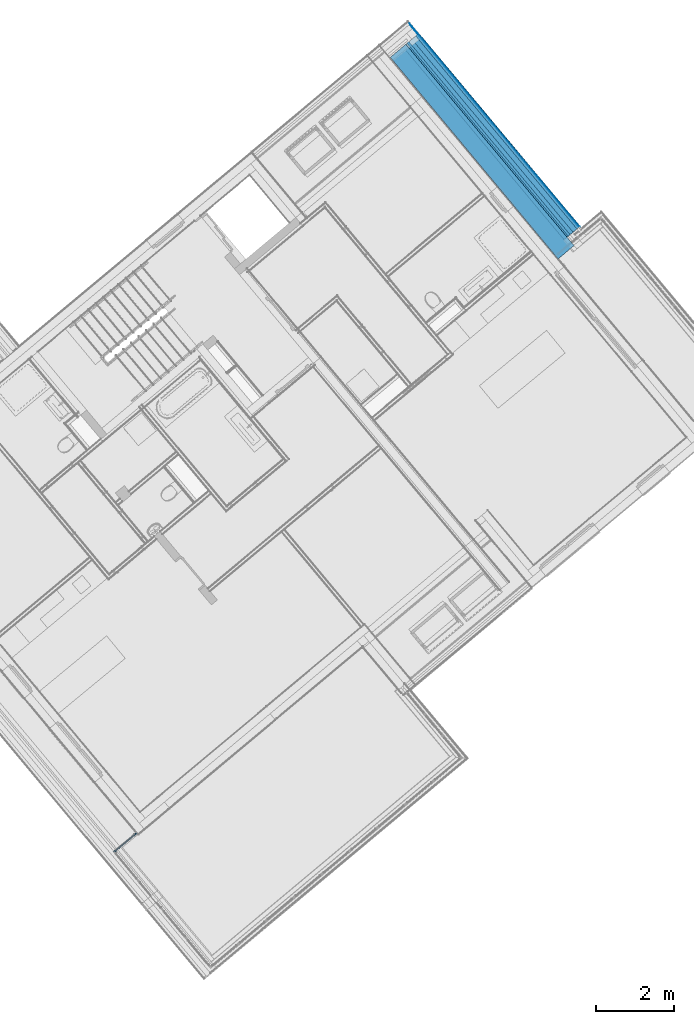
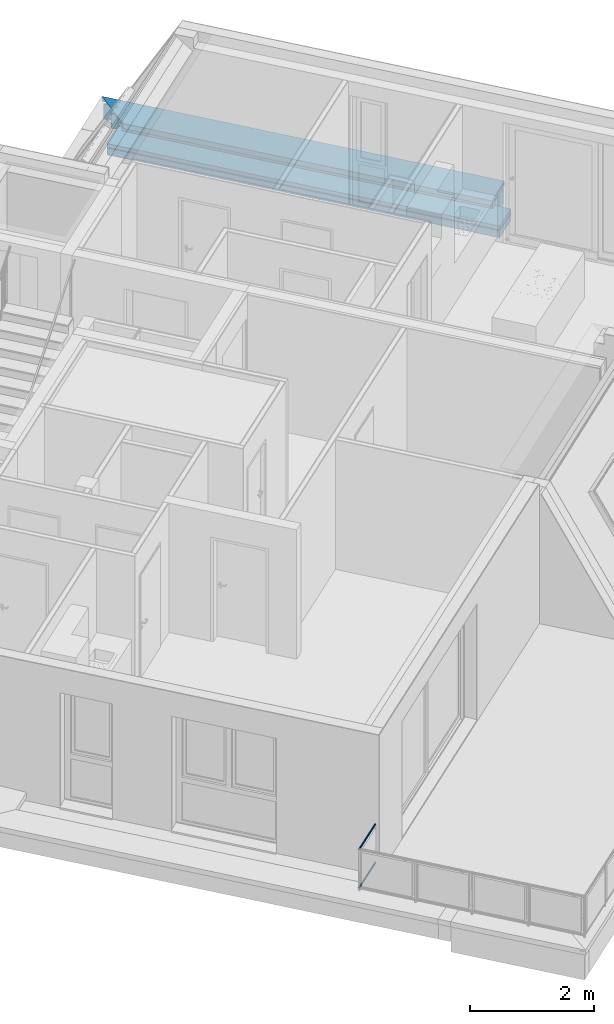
# One storey, part 41 of 58: 15 building element parts, 3 elements without a shape of their own.
"""IFC4 building model written with IfcOpenShell, lengths in metres."""

from ifc_helpers import new_model, entity, si_unit, converted_unit, derived_unit, direction, frame, origin_with_axes, place, context, subcontext, project, spatial, polygons, material, type_object, element, aggregate, save


model = new_model("IFC4")

# Units and contexts
model_context = context("Model", 3, precision=1e-05, world=origin_with_axes(), true_north=direction((0.0, 1.0)))
body_context = subcontext(model_context, "Body", "Model", "MODEL_VIEW")
ifc_project = project(units=[si_unit("LENGTHUNIT", "METRE"), si_unit("AREAUNIT", "SQUARE_METRE"), si_unit("VOLUMEUNIT", "CUBIC_METRE"), converted_unit("PLANEANGLEUNIT", "DEGREE", entity("IfcPlaneAngleMeasure", 0.0174532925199), si_unit("PLANEANGLEUNIT", "RADIAN"), dimensions=[0, 0, 0, 0, 0, 0, 0]), converted_unit("TIMEUNIT", "Year", entity("IfcTimeMeasure", 31556926.0), si_unit("TIMEUNIT", "SECOND"), dimensions=[0, 0, 1, 0, 0, 0, 0]), si_unit("MASSUNIT", "GRAM", prefix="KILO"), si_unit("THERMODYNAMICTEMPERATUREUNIT", "DEGREE_CELSIUS"), si_unit("LUMINOUSINTENSITYUNIT", "LUMEN"), si_unit("ENERGYUNIT", "JOULE", prefix="MEGA"), derived_unit("THERMALCONDUCTANCEUNIT", [(si_unit("POWERUNIT", "WATT"), 1), (si_unit("LENGTHUNIT", "METRE"), -1), (si_unit("THERMODYNAMICTEMPERATUREUNIT", "KELVIN"), -1)]), derived_unit("SPECIFICHEATCAPACITYUNIT", [(si_unit("ENERGYUNIT", "JOULE"), 1), (si_unit("MASSUNIT", "GRAM", prefix="KILO"), -1), (si_unit("THERMODYNAMICTEMPERATUREUNIT", "KELVIN"), -1)]), derived_unit("MASSDENSITYUNIT", [(si_unit("MASSUNIT", "GRAM", prefix="KILO"), 1), (si_unit("VOLUMEUNIT", "CUBIC_METRE"), -1)])], contexts=[model_context])

# Site, building, storey
site_placement = place(None, frame((-0.00153261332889, -0.00661245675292, 0.0), z_axis=(0.0, 0.0, 1.0), x_axis=(1.0, 0.0, 0.0)))
site = spatial("IfcSite", under=ifc_project, at=site_placement, Name="Site", CompositionType="ELEMENT")
building_placement = place(site_placement, origin_with_axes())
building = spatial("IfcBuilding", under=site, at=building_placement, Name="Building", CompositionType="ELEMENT")
storey_placement = place(building_placement, frame((0.0, 0.0, 5.7), z_axis=(0.0, 0.0, 1.0), x_axis=(1.0, 0.0, 0.0)))
storey = spatial("IfcBuildingStorey", under=building, at=storey_placement, Name="DG1", CompositionType="ELEMENT", Elevation=5.7)

# Wall, building element parts
wall_type = type_object("IfcWallType", Name="Bauteil - Attika Terrasse 1.DG 574 x 410", PredefinedType="NOTDEFINED")
wall_placement = place(storey_placement, frame((5.63225201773, 30.7000107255, -0.2), z_axis=(0.0, 0.0, 1.0), x_axis=(0.641212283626, -0.767363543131, 0.0)))
wall = element("IfcWall", 1, at=wall_placement, inside=storey, type_object=wall_type, Name="Wand-003", PredefinedType="NOTDEFINED")
ifc_material_1 = material(Name="Zementputz")
building_element_part_1_placement = place(wall_placement, origin_with_axes())
building_element_part_1 = element("IfcBuildingElementPart", 2, at=building_element_part_1_placement, material=ifc_material_1, Name="Zementputz", PredefinedType="NOTDEFINED", context=body_context, shape_type="Tessellation", body=[
    polygons([(-0.199999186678, 0.214999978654, 0.498822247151), (-0.199999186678, 0.214999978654, 0.499999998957), (6.65166284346, 0.214999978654, 0.499999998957), (6.65166284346, 0.214999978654, 0.2), (-0.199999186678, 0.214999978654, 0.2), (-0.199999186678, 0.214999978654, 0.335), (-0.199999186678, 0.214999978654, 0.488695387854), (-0.199999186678, 0.214999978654, 0.49100648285), (-0.199999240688, 0.199999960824, 0.499999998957), (-0.199999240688, 0.199999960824, 0.498822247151), (6.65166284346, 0.199999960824, 0.499999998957), (6.65166284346, 0.199999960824, 0.2), (-0.199999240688, 0.199999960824, 0.2), (-0.199999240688, 0.199999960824, 0.335), (-0.199999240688, 0.199999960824, 0.488695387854), (-0.199999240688, 0.199999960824, 0.49100648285)], [[[1, 2, 3, 4, 5, 6, 7, 8]], [[9, 2, 1, 10]], [[2, 9, 11, 3]], [[4, 3, 11, 12]], [[13, 5, 4, 12]], [[14, 6, 5, 13]], [[15, 7, 6, 14]], [[16, 8, 7, 15]], [[10, 1, 8, 16]], [[9, 10, 16, 15, 14, 13, 12, 11]]], closed=True),
])
ifc_material_2 = material(Name="Vollholz")
building_element_part_2_placement = place(wall_placement, origin_with_axes())
building_element_part_2 = element("IfcBuildingElementPart", 3, at=building_element_part_2_placement, material=ifc_material_2, Name="Vollholz", PredefinedType="NOTDEFINED", context=body_context, shape_type="Tessellation", body=[
    polygons([(-0.130124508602, 0.130124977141, 0.584015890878), (-0.130124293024, 0.189996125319, 0.584015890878), (-0.130124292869, 0.190039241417, 0.575979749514), (-0.130124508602, 0.130124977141, 0.575979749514), (-0.189984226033, 0.189984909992, 0.586106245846), (6.65166284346, 0.189984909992, 0.586106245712), (6.65166284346, 0.190124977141, 0.560000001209), (-0.13012429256, 0.190124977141, 0.560000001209), (-0.130124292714, 0.190082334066, 0.567947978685), (-0.130124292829, 0.190050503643, 0.573880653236), (-0.130124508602, 0.130124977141, 0.573880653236), (-0.130124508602, 0.130124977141, 0.560000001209), (6.65166284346, 0.130124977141, 0.560000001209), (6.65166284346, 0.130124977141, 0.584015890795), (-0.130124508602, 0.130124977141, 0.567947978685)], [[[1, 2, 3, 4]], [[5, 2, 1]], [[2, 5, 6, 7, 8, 9, 10, 3]], [[3, 10, 11, 4]], [[12, 13, 14, 1, 4, 11, 15]], [[5, 1, 14, 6]], [[14, 13, 7, 6]], [[12, 8, 7, 13]], [[12, 15, 9, 8]], [[9, 15, 11, 10]]], closed=True),
])
ifc_material_3 = material(Name="EPS 1")
building_element_part_3_placement = place(wall_placement, origin_with_axes())
building_element_part_3 = element("IfcBuildingElementPart", 4, at=building_element_part_3_placement, material=ifc_material_3, Name="EPS 1", PredefinedType="NOTDEFINED", context=body_context, shape_type="Tessellation", body=[
    polygons([(7.19897897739e-07, 0.19999996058, 0.498822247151), (7.19897901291e-07, 0.19999996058, 0.499999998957), (6.65166284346, 0.19999996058, 0.499999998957), (6.65166284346, 0.19999996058, 0.2), (7.19897901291e-07, 0.19999996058, 0.2), (7.19897897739e-07, 0.19999996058, 0.335), (7.19897897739e-07, 0.19999996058, 0.488695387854), (7.19897897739e-07, 0.19999996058, 0.49100648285), (-2.39904096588e-10, 2.39907649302e-10, 0.499999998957), (-2.39904096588e-10, 2.39907649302e-10, 0.498822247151), (6.65166284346, 2.39907649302e-10, 0.499999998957), (6.65166284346, 2.39907649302e-10, 0.2), (-2.39904096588e-10, 2.39907649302e-10, 0.2), (-2.39904096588e-10, 2.39907649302e-10, 0.335), (-2.39904096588e-10, 2.39907649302e-10, 0.488695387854), (-2.39904096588e-10, 2.39907649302e-10, 0.49100648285)], [[[1, 2, 3, 4, 5, 6, 7, 8]], [[9, 2, 1, 10]], [[2, 9, 11, 3]], [[12, 4, 3, 11]], [[13, 5, 4, 12]], [[14, 6, 5, 13]], [[15, 7, 6, 14]], [[16, 8, 7, 15]], [[10, 1, 8, 16]], [[9, 10, 16, 15, 14, 13, 12, 11]]], closed=True),
])
ifc_material_4 = material(Name="Brettschichtholz")
building_element_part_4_placement = place(wall_placement, origin_with_axes())
building_element_part_4 = element("IfcBuildingElementPart", 5, at=building_element_part_4_placement, material=ifc_material_4, Name="Brettschichtholz", PredefinedType="NOTDEFINED", context=body_context, shape_type="Tessellation", body=[
    polygons([(0.200000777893, 0.214999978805, 0.519224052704), (0.200000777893, 0.214999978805, 0.559999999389), (6.65166284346, 0.214999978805, 0.559999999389), (6.65166284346, 0.214999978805, 0.499999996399), (0.200000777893, 0.214999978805, 0.500000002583), (0.200000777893, 0.214999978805, 0.50905023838), (0.200000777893, 0.214999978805, 0.511361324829), (0.200000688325, 0.190124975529, 0.559999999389), (0.199999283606, -0.200000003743, 0.519224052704), (0.199999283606, -0.200000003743, 0.559999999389), (0.199999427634, -0.159999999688, 0.559999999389), (0.199999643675, -0.100000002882, 0.559999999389), (0.200000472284, 0.130124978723, 0.559999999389), (6.65166284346, 0.190124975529, 0.559999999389), (6.65166284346, -0.200000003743, 0.500000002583), (6.65166284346, 0.130124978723, 0.559999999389), (6.65166284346, -0.100000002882, 0.559999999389), (6.65166284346, -0.159999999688, 0.559999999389), (6.65166284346, -0.200000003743, 0.559999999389), (0.199999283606, -0.200000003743, 0.500000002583), (0.199999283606, -0.200000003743, 0.50905023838), (0.199999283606, -0.200000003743, 0.511361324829)], [[[1, 2, 3, 4, 5, 6, 7]], [[8, 2, 1, 9, 10, 11, 12, 13]], [[2, 8, 14, 3]], [[15, 4, 3, 14, 16, 17, 18, 19]], [[20, 5, 4, 15]], [[21, 6, 5, 20]], [[22, 7, 6, 21]], [[9, 1, 7, 22]], [[10, 9, 22, 21, 20, 15, 19]], [[11, 10, 19, 18]], [[12, 11, 18, 17]], [[13, 12, 17, 16]], [[8, 13, 16, 14]]], closed=True),
])
ifc_material_5 = material(Name="Stahlbeton")
building_element_part_5_placement = place(wall_placement, origin_with_axes())
building_element_part_5 = element("IfcBuildingElementPart", 6, at=building_element_part_5_placement, material=ifc_material_5, Name="Stahlbeton", PredefinedType="NOTDEFINED", context=body_context, shape_type="Tessellation", body=[
    polygons([(0.199999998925, -1.82835790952e-09, 0.498822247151), (0.199999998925, -1.82835790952e-09, 0.500000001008), (6.65166284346, -1.82836146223e-09, 0.500000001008), (6.65166284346, -1.82836146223e-09, 0.2), (0.199999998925, -1.82835790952e-09, 0.2), (0.199999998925, -1.82835790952e-09, 0.335), (0.199999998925, -1.82835790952e-09, 0.488695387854), (0.199999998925, -1.82835790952e-09, 0.49100648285), (0.199999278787, -0.199999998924, 0.500000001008), (0.199999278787, -0.199999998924, 0.498822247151), (6.65166284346, -0.199999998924, 0.500000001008), (6.65166284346, -0.199999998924, 0.2), (6.65166284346, -0.199999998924, 0.335000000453), (0.199999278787, -0.199999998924, 0.2), (0.199999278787, -0.199999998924, 0.335), (0.199999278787, -0.199999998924, 0.488695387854), (0.199999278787, -0.199999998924, 0.49100648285)], [[[1, 2, 3, 4, 5, 6, 7, 8]], [[9, 2, 1, 10]], [[2, 9, 11, 3]], [[12, 4, 3, 11, 13]], [[14, 5, 4, 12]], [[15, 6, 5, 14]], [[16, 7, 6, 15]], [[17, 8, 7, 16]], [[10, 1, 8, 17]], [[9, 10, 17, 16, 15, 13, 11]], [[15, 14, 12, 13]]], closed=True),
])
building_element_part_6_placement = place(wall_placement, origin_with_axes())
building_element_part_6 = element("IfcBuildingElementPart", 7, at=building_element_part_6_placement, material=ifc_material_2, Name="Vollholz", PredefinedType="NOTDEFINED", context=body_context, shape_type="Tessellation", body=[
    polygons([(0.160109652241, -0.160110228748, 0.573880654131), (0.16010986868, -0.1, 0.573880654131), (0.160062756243, -0.1, 0.567947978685), (0.160062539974, -0.160063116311, 0.567947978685), (0.0999996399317, -0.1, 0.575979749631), (6.65166284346, -0.1, 0.575979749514), (6.65166284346, -0.1, 0.560000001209), (0.159999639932, -0.1, 0.560000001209), (0.159999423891, -0.16, 0.560000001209), (6.65166284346, -0.16, 0.560000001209), (6.65166284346, -0.160110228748, 0.573880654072)], [[[1, 2, 3, 4]], [[5, 2, 1]], [[2, 5, 6, 7, 8, 3]], [[4, 3, 8, 9]], [[1, 4, 9, 10, 11]], [[5, 1, 11, 6]], [[11, 10, 7, 6]], [[9, 8, 7, 10]]], closed=True),
])
building_element_part_7_placement = place(wall_placement, origin_with_axes())
building_element_part_7 = element("IfcBuildingElementPart", 8, at=building_element_part_7_placement, material=ifc_material_3, Name="EPS 1", PredefinedType="NOTDEFINED", context=body_context, shape_type="Tessellation", body=[
    polygons([(0.299999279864, -0.2, 0.519224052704), (0.299999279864, -0.2, 0.560000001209), (6.65166284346, -0.2, 0.560000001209), (6.65166284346, -0.2, 0.335), (0.299999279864, -0.2, 0.335), (0.299999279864, -0.2, 0.488695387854), (0.299999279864, -0.2, 0.49100648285), (0.299999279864, -0.2, 0.498822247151), (0.299999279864, -0.2, 0.499999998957), (0.299999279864, -0.2, 0.50905023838), (0.299999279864, -0.2, 0.511361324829), (0.299998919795, -0.3, 0.560000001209), (0.299998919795, -0.3, 0.519224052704), (6.65166284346, -0.3, 0.560000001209), (6.65166284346, -0.3, 0.335), (0.299998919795, -0.3, 0.335), (0.299998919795, -0.3, 0.488695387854), (0.299998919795, -0.3, 0.49100648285), (0.299998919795, -0.3, 0.498822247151), (0.299998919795, -0.3, 0.499999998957), (0.299998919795, -0.3, 0.50905023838), (0.299998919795, -0.3, 0.511361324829)], [[[1, 2, 3, 4, 5, 6, 7, 8, 9, 10, 11]], [[12, 2, 1, 13]], [[2, 12, 14, 3]], [[15, 4, 3, 14]], [[16, 5, 4, 15]], [[17, 6, 5, 16]], [[18, 7, 6, 17]], [[19, 8, 7, 18]], [[20, 9, 8, 19]], [[21, 10, 9, 20]], [[22, 11, 10, 21]], [[13, 1, 11, 22]], [[12, 13, 22, 21, 20, 19, 18, 17, 16, 15, 14]]], closed=True),
])
ifc_material_6 = material(Name="Holzwerkstoff")
building_element_part_8_placement = place(wall_placement, origin_with_axes())
building_element_part_8 = element("IfcBuildingElementPart", 9, at=building_element_part_8_placement, material=ifc_material_6, Name="Holzwerkstoff", PredefinedType="NOTDEFINED", context=body_context, shape_type="Tessellation", body=[
    polygons([(0.32999880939, -0.329999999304, 0.567947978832), (0.330205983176, -0.330207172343, 0.573880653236), (0.330206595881, -0.160110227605, 0.573880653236), (0.3305599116, -0.330561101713, 0.584015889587), (0.330279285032, -0.330280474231, 0.57597974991), (6.65166284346, -0.329999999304, 0.567947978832), (6.65166284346, -0.330698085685, 0.587938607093), (0.330696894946, -0.330698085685, 0.587938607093), (0.330632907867, -0.330634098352, 0.586106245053), (0.330280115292, -0.100000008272, 0.575979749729), (6.65166284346, -0.160110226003, 0.573880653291), (0.330561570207, 0.130125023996, 0.584015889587), (6.65166284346, -0.100000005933, 0.575979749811), (6.65166284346, 0.130124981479, 0.584015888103), (6.65166284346, 0.189984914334, 0.586106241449), (6.65166284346, 0.239999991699, 0.587852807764), (6.65166284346, 0.239276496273, 0.608570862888), (-0.239275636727, 0.239276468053, 0.608570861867), (0.330698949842, 0.2399969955, 0.587938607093), (0.330695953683, 0.239999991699, 0.587852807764), (0.330634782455, 0.189985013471, 0.586106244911)], [[[1, 2, 3]], [[4, 5, 2, 1, 6, 7, 8, 9]], [[2, 5, 10, 3]], [[1, 3, 11, 6]], [[5, 4, 12, 10]], [[7, 6, 11, 13, 14, 15, 16, 17]], [[18, 8, 7, 17]], [[9, 8, 19, 20, 21]], [[4, 9, 21, 12]], [[3, 10, 13, 11]], [[10, 12, 14, 13]], [[12, 21, 15, 14]], [[21, 20, 16, 15]], [[19, 18, 17, 16, 20]], [[8, 18, 19]]], closed=True),
])
ifc_material_7 = material(Name="Stahl")
building_element_part_9_placement = place(wall_placement, origin_with_axes())
building_element_part_9 = element("IfcBuildingElementPart", 10, at=building_element_part_9_placement, material=ifc_material_7, Name="Stahl", PredefinedType="NOTDEFINED", context=body_context, shape_type="Tessellation", body=[
    polygons([(0.332050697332, -0.332051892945, 0.49100648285), (0.332050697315, -0.332051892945, 0.489652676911), (6.65166284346, -0.332051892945, 0.489652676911), (6.65166284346, -0.332051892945, 0.589243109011), (0.332050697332, -0.332051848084, 0.589243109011), (0.332050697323, -0.332051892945, 0.587937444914), (0.332050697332, -0.332051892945, 0.586106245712), (0.332050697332, -0.332051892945, 0.584015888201), (0.332050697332, -0.332051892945, 0.575979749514), (0.332050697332, -0.332051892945, 0.573880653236), (0.332050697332, -0.332051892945, 0.567947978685), (0.332050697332, -0.332051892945, 0.559999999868), (0.332050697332, -0.332051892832, 0.519224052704), (0.332050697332, -0.332051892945, 0.511361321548), (0.332050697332, -0.332051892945, 0.50905024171), (0.332050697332, -0.332051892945, 0.499999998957), (0.332050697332, -0.332051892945, 0.498822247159), (0.332050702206, -0.330698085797, 0.49100648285), (0.3320507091, -0.328783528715, 0.491006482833), (0.332050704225, -0.330137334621, 0.489652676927), (0.331093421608, -0.331094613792, 0.488695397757), (6.65166284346, -0.331094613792, 0.488695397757), (6.65166284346, -0.321878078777, 0.497911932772), (6.65166284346, -0.32288233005, 0.498822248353), (6.65166284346, -0.330698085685, 0.491006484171), (6.65166284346, -0.330698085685, 0.587937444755), (6.65166284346, 0.239276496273, 0.608570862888), (6.65166284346, 0.240152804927, 0.608602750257), (6.65166284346, 0.240146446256, 0.51136132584), (6.65166284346, 0.232283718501, 0.519224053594), (6.65166284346, 0.231373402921, 0.518219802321), (6.65166284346, 0.240542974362, 0.509050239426), (6.65166284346, 0.241500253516, 0.510007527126), (6.65166284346, 0.241500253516, 0.610006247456), (-0.241499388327, 0.241500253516, 0.610006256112), (-0.202729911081, 0.202730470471, 0.608602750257), (-0.201849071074, 0.201849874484, 0.608570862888), (0.332050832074, -0.294630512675, 0.589243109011), (0.332050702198, -0.330698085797, 0.587937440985), (0.332050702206, -0.330698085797, 0.586106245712), (0.332050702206, -0.330698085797, 0.584015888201), (0.332050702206, -0.330698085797, 0.575979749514), (0.332050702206, -0.330698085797, 0.573880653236), (0.332050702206, -0.330698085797, 0.567947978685), (0.332050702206, -0.330698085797, 0.559999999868), (0.332050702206, -0.330698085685, 0.519224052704), (0.332050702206, -0.330698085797, 0.511361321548), (0.332050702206, -0.330698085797, 0.50905024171), (0.332050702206, -0.330698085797, 0.499999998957), (0.332050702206, -0.330698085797, 0.498822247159), (0.330696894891, -0.330698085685, 0.491006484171), (0.330696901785, -0.328783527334, 0.491006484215), (0.323791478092, -0.321878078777, 0.497911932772), (0.322881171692, -0.32288233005, 0.498822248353), (-0.201848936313, 0.239276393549, 0.608570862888), (-0.202729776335, 0.240152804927, 0.608602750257), (-0.240145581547, 0.240146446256, 0.51136132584), (-0.238231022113, 0.240146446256, 0.511361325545), (-0.240151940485, 0.240152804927, 0.608602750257), (-0.240151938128, 0.240152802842, 0.608570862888), (-0.240150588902, 0.240151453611, 0.587937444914), (-0.240150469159, 0.240151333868, 0.586106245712), (-0.24015033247, 0.240151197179, 0.584015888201), (-0.240149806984, 0.240150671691, 0.575979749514), (-0.240149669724, 0.24015053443, 0.573880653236), (-0.240149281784, 0.240150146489, 0.567947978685), (-0.240148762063, 0.240149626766, 0.559999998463), (-0.240146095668, 0.240146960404, 0.519224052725), (-0.231372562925, 0.233287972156, 0.518219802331), (-0.232282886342, 0.232283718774, 0.519224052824), (-0.231372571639, 0.231373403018, 0.518219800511), (-0.238231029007, 0.238231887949, 0.51136132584), (-0.240542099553, 0.240542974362, 0.50905023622), (-0.239584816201, 0.241500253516, 0.510007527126), (-0.238231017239, 0.241500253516, 0.511361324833), (-0.240145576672, 0.241500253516, 0.511361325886), (-0.240146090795, 0.241500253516, 0.519224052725), (-0.2401487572, 0.241500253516, 0.559999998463), (-0.240149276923, 0.241500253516, 0.567947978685), (-0.240149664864, 0.241500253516, 0.573880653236), (-0.240149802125, 0.241500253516, 0.575979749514), (-0.240150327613, 0.241500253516, 0.584015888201), (-0.240150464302, 0.241500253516, 0.586106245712), (-0.240150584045, 0.241500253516, 0.587937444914), (-0.240151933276, 0.241500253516, 0.608570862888), (-0.240151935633, 0.241500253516, 0.608602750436), (-0.202729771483, 0.241500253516, 0.608602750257)], [[[1, 2, 3, 4, 5, 6, 7, 8, 9, 10, 11, 12, 13, 14, 15, 16, 17]], [[2, 1, 18, 19, 20]], [[2, 21, 22, 3]], [[3, 22, 23, 24, 25, 26, 27, 28, 29, 30, 31, 32, 33, 34, 4]], [[5, 4, 34, 35, 36, 37]], [[6, 5, 38, 39]], [[7, 6, 39, 40]], [[8, 7, 40, 41]], [[9, 8, 41, 42]], [[10, 9, 42, 43]], [[11, 10, 43, 44]], [[12, 11, 44, 45]], [[13, 12, 45, 46]], [[14, 13, 46, 47]], [[15, 14, 47, 48]], [[16, 15, 48, 49]], [[17, 16, 49, 50]], [[1, 17, 50, 18]], [[18, 51, 52, 19]], [[21, 20, 19, 52, 53, 23, 22]], [[21, 2, 20]], [[23, 53, 54, 24]], [[51, 18, 25, 24, 54]], [[18, 50, 49, 48, 47, 46, 45, 44, 43, 42, 41, 40, 39, 26, 25]], [[26, 39, 38, 55, 27]], [[55, 56, 28, 27]], [[57, 58, 29, 28, 56, 59, 60, 61, 62, 63, 64, 65, 66, 67, 68]], [[58, 69, 70, 30, 29]], [[70, 71, 31, 30]], [[71, 72, 73, 32, 31]], [[73, 74, 33, 32]], [[74, 75, 76, 77, 78, 79, 80, 81, 82, 83, 84, 85, 86, 87, 35, 34, 33]], [[56, 36, 35, 87]], [[37, 36, 56, 55]], [[38, 5, 37, 55]], [[52, 51, 54, 53]], [[58, 57, 76, 75]], [[59, 56, 87, 86]], [[60, 59, 86, 85]], [[61, 60, 85, 84]], [[62, 61, 84, 83]], [[63, 62, 83, 82]], [[64, 63, 82, 81]], [[65, 64, 81, 80]], [[79, 66, 65, 80]], [[67, 66, 79, 78]], [[68, 67, 78, 77]], [[57, 68, 77, 76]], [[71, 69, 58, 72]], [[69, 71, 70]], [[72, 58, 75, 74, 73]]], closed=True),
])
aggregate(wall, [building_element_part_1, building_element_part_2, building_element_part_3, building_element_part_4, building_element_part_5, building_element_part_6, building_element_part_7, building_element_part_8, building_element_part_9])

# Covering, building element parts
covering_type = type_object("IfcCoveringType", Name="Balkon vor Terrasse Kies 220", PredefinedType="NOTDEFINED")
covering_placement = place(storey_placement, frame((9.51043860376, 24.9075540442, 0.0), z_axis=(0.0, 0.0, 1.0), x_axis=(1.0, 0.0, 0.0)))
covering = element("IfcCovering", 11, at=covering_placement, inside=storey, type_object=covering_type, Name="Decke-005", PredefinedType="NOTDEFINED")
ifc_material_8 = material(Name="Kies")
building_element_part_10_placement = place(covering_placement, origin_with_axes())
building_element_part_10 = element("IfcBuildingElementPart", 12, at=building_element_part_10_placement, material=ifc_material_8, Name="Kies", PredefinedType="NOTDEFINED", context=body_context, shape_type="Tessellation", body=[
    polygons([(-4.3048963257, 5.17526691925, 0.22), (0.0115104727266, 0.00961813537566, 0.22), (0.413007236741, 0.345108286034, 0.22), (-3.90341732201, 5.51074204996, 0.22), (0.0115104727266, 0.00961813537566, 0.15), (-4.3048963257, 5.17526691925, 0.15), (0.413007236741, 0.345108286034, 0.15), (-3.90341732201, 5.51074204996, 0.15)], [[[1, 2, 3, 4]], [[5, 2, 1, 6]], [[2, 5, 7, 3]], [[7, 8, 4, 3]], [[6, 1, 4, 8]], [[5, 6, 8, 7]]], closed=True),
])
ifc_material_9 = material(Name="Sperrschicht")
building_element_part_11_placement = place(covering_placement, origin_with_axes())
building_element_part_11 = element("IfcBuildingElementPart", 13, at=building_element_part_11_placement, material=ifc_material_9, Name="Sperrschicht", PredefinedType="NOTDEFINED", context=body_context, shape_type="Tessellation", body=[
    polygons([(0.413007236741, 0.345108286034, 0.135), (0.413007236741, 0.345108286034, 0.15), (0.0, 0.0, 0.15), (0.0, 0.0, 0.135), (-3.90341732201, 5.51074204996, 0.135), (-3.90341732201, 5.51074204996, 0.15), (-4.30522843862, 5.17498940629, 0.15), (-4.30522843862, 5.17498940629, 0.135)], [[[1, 2, 3, 4]], [[5, 6, 2, 1]], [[3, 2, 6, 7]], [[4, 3, 7, 8]], [[4, 8, 5, 1]], [[8, 7, 6, 5]]], closed=True),
])
ifc_material_10 = material(Name="XPS")
building_element_part_12_placement = place(covering_placement, origin_with_axes())
building_element_part_12 = element("IfcBuildingElementPart", 14, at=building_element_part_12_placement, material=ifc_material_10, Name="XPS", PredefinedType="NOTDEFINED", context=body_context, shape_type="Tessellation", body=[
    polygons([(0.413007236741, 0.345108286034, 0.005), (0.413007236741, 0.345108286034, 0.135), (0.0, 0.0, 0.135), (0.0, 0.0, 0.005), (-3.90341732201, 5.51074204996, 0.005), (-3.90341732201, 5.51074204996, 0.135), (-4.30522843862, 5.17498940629, 0.135), (-4.30522843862, 5.17498940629, 0.005)], [[[1, 2, 3, 4]], [[5, 6, 2, 1]], [[3, 2, 6, 7]], [[4, 3, 7, 8]], [[4, 8, 5, 1]], [[8, 7, 6, 5]]], closed=True),
])
building_element_part_13_placement = place(covering_placement, origin_with_axes())
building_element_part_13 = element("IfcBuildingElementPart", 15, at=building_element_part_13_placement, material=ifc_material_9, Name="Sperrschicht", PredefinedType="NOTDEFINED", context=body_context, shape_type="Tessellation", body=[
    polygons([(0.0, 0.0, 0.0), (0.413007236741, 0.345108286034, 0.0), (0.413007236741, 0.345108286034, 0.005), (0.0, 0.0, 0.005), (-4.30522843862, 5.17498940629, 0.0), (-3.90341732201, 5.51074204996, 0.0), (-3.90341732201, 5.51074204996, 0.005), (-4.30522843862, 5.17498940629, 0.005)], [[[1, 2, 3, 4]], [[1, 5, 6, 2]], [[2, 6, 7, 3]], [[4, 3, 7, 8]], [[5, 1, 4, 8]], [[6, 5, 8, 7]]], closed=True),
])
aggregate(covering, [building_element_part_10, building_element_part_11, building_element_part_12, building_element_part_13])

# Railing, building element parts
railing_type = type_object("IfcRailingType", Name="Geländerart", PredefinedType="NOTDEFINED")
railing_placement = place(storey_placement, frame((-1.26757951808, 10.1438545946, 0.38), z_axis=(0.0, 0.0, 1.0), x_axis=(1.0, 0.0, 0.0)))
railing = element("IfcRailing", 16, at=railing_placement, inside=storey, type_object=railing_type, Name="Geländer - 001", PredefinedType="NOTDEFINED")
ifc_material_11 = material(Name="Aluminium")
building_element_part_14_placement = place(railing_placement, origin_with_axes())
building_element_part_14 = element("IfcBuildingElementPart", 17, at=building_element_part_14_placement, material=ifc_material_11, Name="Aluminium", PredefinedType="NOTDEFINED", context=body_context, shape_type="Tessellation", body=[
    polygons([(-0.0224318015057, 0.026866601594, 0.825), (-0.0225778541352, 0.0270415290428, 0.827604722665), (-0.586355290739, -0.443674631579, 0.827604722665), (-0.586034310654, -0.443703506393, 0.825), (-0.0225778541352, 0.0270415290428, 0.822395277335), (-0.0230115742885, 0.0275609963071, 0.81986969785), (-0.0237197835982, 0.0284092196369, 0.8175), (-0.0246809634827, 0.0295604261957, 0.815358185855), (-0.0258659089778, 0.0309796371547, 0.813509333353), (-0.027238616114, 0.032623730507, 0.812009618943), (-0.0287573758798, 0.034442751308, 0.810904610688), (-0.0303760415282, 0.0363814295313, 0.810227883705), (-0.0320454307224, 0.03838085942, 0.81), (-0.0337148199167, 0.0403802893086, 0.810227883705), (-0.035333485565, 0.0423189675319, 0.810904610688), (-0.0368522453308, 0.044137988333, 0.812009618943), (-0.038224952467, 0.0457820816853, 0.813509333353), (-0.0394098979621, 0.0472012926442, 0.815358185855), (-0.0403710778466, 0.048352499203, 0.8175), (-0.0410792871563, 0.0492007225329, 0.81986969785), (-0.0415130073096, 0.0497201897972, 0.822395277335), (-0.0416590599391, 0.049895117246, 0.825), (-0.0415130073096, 0.0497201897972, 0.827604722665), (-0.0410792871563, 0.0492007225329, 0.83013030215), (-0.0403710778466, 0.048352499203, 0.8325), (-0.0394098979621, 0.0472012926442, 0.834641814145), (-0.038224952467, 0.0457820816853, 0.836490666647), (-0.0368522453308, 0.044137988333, 0.837990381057), (-0.035333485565, 0.0423189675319, 0.839095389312), (-0.0337148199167, 0.0403802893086, 0.839772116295), (-0.0320454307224, 0.03838085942, 0.84), (-0.0303760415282, 0.0363814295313, 0.839772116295), (-0.0287573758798, 0.034442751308, 0.839095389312), (-0.027238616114, 0.032623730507, 0.837990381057), (-0.0258659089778, 0.0309796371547, 0.836490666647), (-0.0246809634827, 0.0295604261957, 0.834641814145), (-0.0237197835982, 0.0284092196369, 0.8325), (-0.0230115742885, 0.0275609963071, 0.83013030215), (-0.587308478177, -0.443588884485, 0.83013030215), (-0.588864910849, -0.443448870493, 0.8325), (-0.590977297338, -0.443258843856, 0.834641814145), (-0.593581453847, -0.443024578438, 0.836490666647), (-0.5965982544, -0.442753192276, 0.837990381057), (-0.599936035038, -0.4424529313, 0.839095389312), (-0.603493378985, -0.442132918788, 0.839772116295), (-0.607162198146, -0.441802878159, 0.84), (-0.610831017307, -0.441472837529, 0.839772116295), (-0.614388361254, -0.441152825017, 0.839095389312), (-0.617726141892, -0.440852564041, 0.837990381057), (-0.620742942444, -0.440581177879, 0.836490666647), (-0.623347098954, -0.440346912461, 0.834641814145), (-0.625459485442, -0.440156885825, 0.8325), (-0.627015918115, -0.440016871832, 0.83013030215), (-0.627969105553, -0.439931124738, 0.827604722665), (-0.628290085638, -0.439902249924, 0.825), (-0.627969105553, -0.439931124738, 0.822395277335), (-0.627015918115, -0.440016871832, 0.81986969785), (-0.625459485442, -0.440156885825, 0.8175), (-0.623347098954, -0.440346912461, 0.815358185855), (-0.620742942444, -0.440581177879, 0.813509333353), (-0.617726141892, -0.440852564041, 0.812009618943), (-0.614388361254, -0.441152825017, 0.810904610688), (-0.610831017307, -0.441472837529, 0.810227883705), (-0.607162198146, -0.441802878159, 0.81), (-0.603493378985, -0.442132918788, 0.810227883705), (-0.599936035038, -0.4424529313, 0.810904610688), (-0.5965982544, -0.442753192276, 0.812009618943), (-0.593581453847, -0.443024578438, 0.813509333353), (-0.590977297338, -0.443258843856, 0.815358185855), (-0.588864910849, -0.443448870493, 0.8175), (-0.587308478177, -0.443588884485, 0.81986969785), (-0.586355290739, -0.443674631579, 0.822395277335)], [[[1, 2, 3, 4]], [[1, 5, 6, 7, 8, 9, 10, 11, 12, 13, 14, 15, 16, 17, 18, 19, 20, 21, 22, 23, 24, 25, 26, 27, 28, 29, 30, 31, 32, 33, 34, 35, 36, 37, 38, 2]], [[2, 38, 39, 3]], [[4, 3, 39, 40, 41, 42, 43, 44, 45, 46, 47, 48, 49, 50, 51, 52, 53, 54, 55, 56, 57, 58, 59, 60, 61, 62, 63, 64, 65, 66, 67, 68, 69, 70, 71, 72]], [[5, 1, 4, 72]], [[6, 5, 72, 71]], [[7, 6, 71, 70]], [[8, 7, 70, 69]], [[9, 8, 69, 68]], [[10, 9, 68, 67]], [[11, 10, 67, 66]], [[12, 11, 66, 65]], [[13, 12, 65, 64]], [[14, 13, 64, 63]], [[15, 14, 63, 62]], [[16, 15, 62, 61]], [[17, 16, 61, 60]], [[18, 17, 60, 59]], [[19, 18, 59, 58]], [[20, 19, 58, 57]], [[21, 20, 57, 56]], [[22, 21, 56, 55]], [[23, 22, 55, 54]], [[24, 23, 54, 53]], [[25, 24, 53, 52]], [[26, 25, 52, 51]], [[27, 26, 51, 50]], [[28, 27, 50, 49]], [[29, 28, 49, 48]], [[30, 29, 48, 47]], [[31, 30, 47, 46]], [[32, 31, 46, 45]], [[33, 32, 45, 44]], [[34, 33, 44, 43]], [[35, 34, 43, 42]], [[36, 35, 42, 41]], [[37, 36, 41, 40]], [[38, 37, 40, 39]]], closed=True),
])
building_element_part_15_placement = place(railing_placement, origin_with_axes())
building_element_part_15 = element("IfcBuildingElementPart", 18, at=building_element_part_15_placement, material=ifc_material_11, Name="Aluminium", PredefinedType="NOTDEFINED", context=body_context, shape_type="Tessellation", body=[
    polygons([(-0.0224318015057, 0.026866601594, 0.07), (-0.0225778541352, 0.0270415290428, 0.072604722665), (-0.586355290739, -0.443674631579, 0.072604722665), (-0.586034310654, -0.443703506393, 0.07), (-0.0225778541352, 0.0270415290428, 0.067395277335), (-0.0230115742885, 0.0275609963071, 0.0648696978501), (-0.0237197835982, 0.0284092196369, 0.0625), (-0.0246809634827, 0.0295604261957, 0.0603581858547), (-0.0258659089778, 0.0309796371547, 0.0585093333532), (-0.027238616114, 0.032623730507, 0.0570096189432), (-0.0287573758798, 0.034442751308, 0.0559046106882), (-0.0303760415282, 0.0363814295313, 0.0552278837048), (-0.0320454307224, 0.03838085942, 0.055), (-0.0337148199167, 0.0403802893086, 0.0552278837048), (-0.035333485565, 0.0423189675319, 0.0559046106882), (-0.0368522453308, 0.044137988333, 0.0570096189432), (-0.038224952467, 0.0457820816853, 0.0585093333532), (-0.0394098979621, 0.0472012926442, 0.0603581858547), (-0.0403710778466, 0.048352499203, 0.0625), (-0.0410792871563, 0.0492007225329, 0.0648696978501), (-0.0415130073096, 0.0497201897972, 0.067395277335), (-0.0416590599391, 0.049895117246, 0.07), (-0.0415130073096, 0.0497201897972, 0.072604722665), (-0.0410792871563, 0.0492007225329, 0.0751303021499), (-0.0403710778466, 0.048352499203, 0.0775), (-0.0394098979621, 0.0472012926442, 0.0796418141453), (-0.038224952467, 0.0457820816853, 0.0814906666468), (-0.0368522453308, 0.044137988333, 0.0829903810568), (-0.035333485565, 0.0423189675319, 0.0840953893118), (-0.0337148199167, 0.0403802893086, 0.0847721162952), (-0.0320454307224, 0.03838085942, 0.085), (-0.0303760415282, 0.0363814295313, 0.0847721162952), (-0.0287573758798, 0.034442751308, 0.0840953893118), (-0.027238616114, 0.032623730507, 0.0829903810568), (-0.0258659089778, 0.0309796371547, 0.0814906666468), (-0.0246809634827, 0.0295604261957, 0.0796418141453), (-0.0237197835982, 0.0284092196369, 0.0775), (-0.0230115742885, 0.0275609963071, 0.0751303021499), (-0.587308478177, -0.443588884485, 0.0751303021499), (-0.588864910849, -0.443448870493, 0.0775), (-0.590977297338, -0.443258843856, 0.0796418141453), (-0.593581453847, -0.443024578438, 0.0814906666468), (-0.5965982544, -0.442753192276, 0.0829903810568), (-0.599936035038, -0.4424529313, 0.0840953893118), (-0.603493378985, -0.442132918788, 0.0847721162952), (-0.607162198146, -0.441802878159, 0.085), (-0.610831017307, -0.441472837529, 0.0847721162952), (-0.614388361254, -0.441152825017, 0.0840953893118), (-0.617726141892, -0.440852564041, 0.0829903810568), (-0.620742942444, -0.440581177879, 0.0814906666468), (-0.623347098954, -0.440346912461, 0.0796418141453), (-0.625459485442, -0.440156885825, 0.0775), (-0.627015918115, -0.440016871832, 0.0751303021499), (-0.627969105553, -0.439931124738, 0.072604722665), (-0.628290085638, -0.439902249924, 0.07), (-0.627969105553, -0.439931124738, 0.067395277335), (-0.627015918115, -0.440016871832, 0.0648696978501), (-0.625459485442, -0.440156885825, 0.0625), (-0.623347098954, -0.440346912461, 0.0603581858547), (-0.620742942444, -0.440581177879, 0.0585093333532), (-0.617726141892, -0.440852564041, 0.0570096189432), (-0.614388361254, -0.441152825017, 0.0559046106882), (-0.610831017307, -0.441472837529, 0.0552278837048), (-0.607162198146, -0.441802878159, 0.055), (-0.603493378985, -0.442132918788, 0.0552278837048), (-0.599936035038, -0.4424529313, 0.0559046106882), (-0.5965982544, -0.442753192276, 0.0570096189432), (-0.593581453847, -0.443024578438, 0.0585093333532), (-0.590977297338, -0.443258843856, 0.0603581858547), (-0.588864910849, -0.443448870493, 0.0625), (-0.587308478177, -0.443588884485, 0.0648696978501), (-0.586355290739, -0.443674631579, 0.067395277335)], [[[1, 2, 3, 4]], [[1, 5, 6, 7, 8, 9, 10, 11, 12, 13, 14, 15, 16, 17, 18, 19, 20, 21, 22, 23, 24, 25, 26, 27, 28, 29, 30, 31, 32, 33, 34, 35, 36, 37, 38, 2]], [[2, 38, 39, 3]], [[4, 3, 39, 40, 41, 42, 43, 44, 45, 46, 47, 48, 49, 50, 51, 52, 53, 54, 55, 56, 57, 58, 59, 60, 61, 62, 63, 64, 65, 66, 67, 68, 69, 70, 71, 72]], [[5, 1, 4, 72]], [[6, 5, 72, 71]], [[7, 6, 71, 70]], [[8, 7, 70, 69]], [[9, 8, 69, 68]], [[10, 9, 68, 67]], [[11, 10, 67, 66]], [[12, 11, 66, 65]], [[13, 12, 65, 64]], [[14, 13, 64, 63]], [[15, 14, 63, 62]], [[16, 15, 62, 61]], [[17, 16, 61, 60]], [[18, 17, 60, 59]], [[19, 18, 59, 58]], [[20, 19, 58, 57]], [[21, 20, 57, 56]], [[22, 21, 56, 55]], [[23, 22, 55, 54]], [[24, 23, 54, 53]], [[25, 24, 53, 52]], [[26, 25, 52, 51]], [[27, 26, 51, 50]], [[28, 27, 50, 49]], [[29, 28, 49, 48]], [[30, 29, 48, 47]], [[31, 30, 47, 46]], [[32, 31, 46, 45]], [[33, 32, 45, 44]], [[34, 33, 44, 43]], [[35, 34, 43, 42]], [[36, 35, 42, 41]], [[37, 36, 41, 40]], [[38, 37, 40, 39]]], closed=True),
])
aggregate(railing, [building_element_part_14, building_element_part_15])

save(model, "model.ifc")
